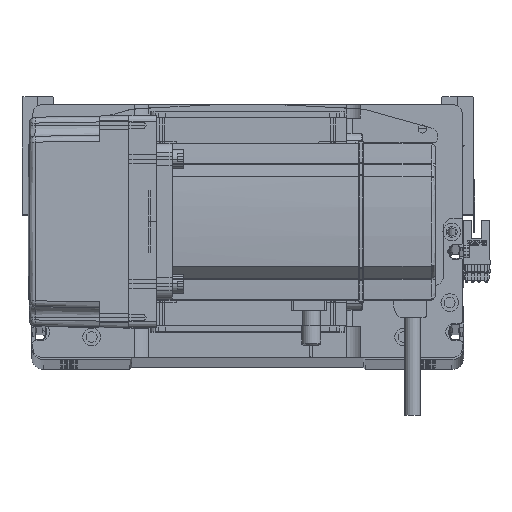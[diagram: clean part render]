
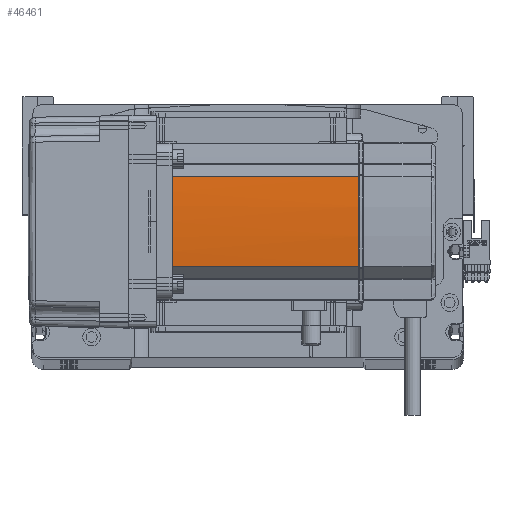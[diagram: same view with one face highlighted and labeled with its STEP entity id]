
A CAD part, top view. The second image highlights one B-rep face of the part: STEP entity #46461.
In plain terms, the highlighted cylindrical face has radius 270 mm (diameter 540 mm), a partial arc.
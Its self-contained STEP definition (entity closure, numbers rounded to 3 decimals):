
#787 = AXIS2_PLACEMENT_3D ( 'NONE', #51776, #29126, #33296 ) ;
#883 = CYLINDRICAL_SURFACE ( 'NONE', #57159, 270. ) ;
#2351 = B_SPLINE_CURVE_WITH_KNOTS ( 'NONE', 3,
 ( #12467, #16929, #25773, #25957 ),
 .UNSPECIFIED., .F., .F.,
 ( 4, 4 ),
 ( 0., 1. ),
 .UNSPECIFIED. ) ;
#3034 = CARTESIAN_POINT ( 'NONE',  ( -230., 0., 58. ) ) ;
#3572 = VECTOR ( 'NONE', #35640, 1000. ) ;
#3884 = VERTEX_POINT ( 'NONE', #49983 ) ;
#8640 = VERTEX_POINT ( 'NONE', #24011 ) ;
#10435 = LINE ( 'NONE', #53636, #56819 ) ;
#11533 = EDGE_CURVE ( 'NONE', #8640, #32600, #2351, .T. ) ;
#12321 = AXIS2_PLACEMENT_3D ( 'NONE', #30859, #39515, #57758 ) ;
#12422 = CARTESIAN_POINT ( 'NONE',  ( 39.042, -22.724, 134. ) ) ;
#12467 = CARTESIAN_POINT ( 'NONE',  ( 40., -0.127, 134. ) ) ;
#12966 = AXIS2_PLACEMENT_3D ( 'NONE', #30383, #17168, #25992 ) ;
#16929 = CARTESIAN_POINT ( 'NONE',  ( 40., -0.042, 134. ) ) ;
#17168 = DIRECTION ( 'NONE',  ( 0., 0., -1. ) ) ;
#17610 = DIRECTION ( 'NONE',  ( 0., 0., 1. ) ) ;
#17760 = EDGE_CURVE ( 'NONE', #3884, #32600, #48540, .T. ) ;
#20641 = EDGE_LOOP ( 'NONE', ( #30156, #44771, #31122, #20996, #54476, #47334 ) ) ;
#20996 = ORIENTED_EDGE ( 'NONE', *, *, #17760, .T. ) ;
#21135 = FACE_OUTER_BOUND ( 'NONE', #20641, .T. ) ;
#22893 = CARTESIAN_POINT ( 'NONE',  ( 39.042, -22.724, 39. ) ) ;
#24011 = CARTESIAN_POINT ( 'NONE',  ( 40., -0.127, 134. ) ) ;
#25367 = DIRECTION ( 'NONE',  ( 0., 0., -1. ) ) ;
#25628 = CIRCLE ( 'NONE', #12321, 270. ) ;
#25773 = CARTESIAN_POINT ( 'NONE',  ( 40., 0.042, 134. ) ) ;
#25957 = CARTESIAN_POINT ( 'NONE',  ( 40., 0.127, 134. ) ) ;
#25992 = DIRECTION ( 'NONE',  ( -1., 0., 0. ) ) ;
#28827 = LINE ( 'NONE', #49546, #3572 ) ;
#29126 = DIRECTION ( 'NONE',  ( 0., 0., -1. ) ) ;
#29763 = CIRCLE ( 'NONE', #787, 270. ) ;
#30122 = DIRECTION ( 'NONE',  ( -1., 0., 0. ) ) ;
#30156 = ORIENTED_EDGE ( 'NONE', *, *, #52895, .T. ) ;
#30383 = CARTESIAN_POINT ( 'NONE',  ( -230., 0., 134. ) ) ;
#30816 = EDGE_CURVE ( 'NONE', #33809, #3884, #10435, .T. ) ;
#30859 = CARTESIAN_POINT ( 'NONE',  ( -230., 0., 39. ) ) ;
#31122 = ORIENTED_EDGE ( 'NONE', *, *, #30816, .T. ) ;
#32600 = VERTEX_POINT ( 'NONE', #37444 ) ;
#32654 = EDGE_CURVE ( 'NONE', #8640, #48156, #29763, .T. ) ;
#33296 = DIRECTION ( 'NONE',  ( -1., 0., 0. ) ) ;
#33809 = VERTEX_POINT ( 'NONE', #47208 ) ;
#34933 = VERTEX_POINT ( 'NONE', #22893 ) ;
#35640 = DIRECTION ( 'NONE',  ( 0., 0., -1. ) ) ;
#37444 = CARTESIAN_POINT ( 'NONE',  ( 40., 0.127, 134. ) ) ;
#37714 = EDGE_CURVE ( 'NONE', #33809, #34933, #25628, .T. ) ;
#39515 = DIRECTION ( 'NONE',  ( 0., 0., -1. ) ) ;
#44771 = ORIENTED_EDGE ( 'NONE', *, *, #37714, .F. ) ;
#46461 = ADVANCED_FACE ( 'NONE', ( #21135 ), #883, .T. ) ;
#47208 = CARTESIAN_POINT ( 'NONE',  ( 39.042, 22.724, 39. ) ) ;
#47334 = ORIENTED_EDGE ( 'NONE', *, *, #32654, .T. ) ;
#48156 = VERTEX_POINT ( 'NONE', #12422 ) ;
#48540 = CIRCLE ( 'NONE', #12966, 270. ) ;
#49546 = CARTESIAN_POINT ( 'NONE',  ( 39.042, -22.724, 58. ) ) ;
#49983 = CARTESIAN_POINT ( 'NONE',  ( 39.042, 22.724, 134. ) ) ;
#51776 = CARTESIAN_POINT ( 'NONE',  ( -230., 0., 134. ) ) ;
#52895 = EDGE_CURVE ( 'NONE', #48156, #34933, #28827, .T. ) ;
#53636 = CARTESIAN_POINT ( 'NONE',  ( 39.042, 22.724, 58. ) ) ;
#54476 = ORIENTED_EDGE ( 'NONE', *, *, #11533, .F. ) ;
#56819 = VECTOR ( 'NONE', #17610, 1000. ) ;
#57159 = AXIS2_PLACEMENT_3D ( 'NONE', #3034, #25367, #30122 ) ;
#57758 = DIRECTION ( 'NONE',  ( -1., 0., 0. ) ) ;
